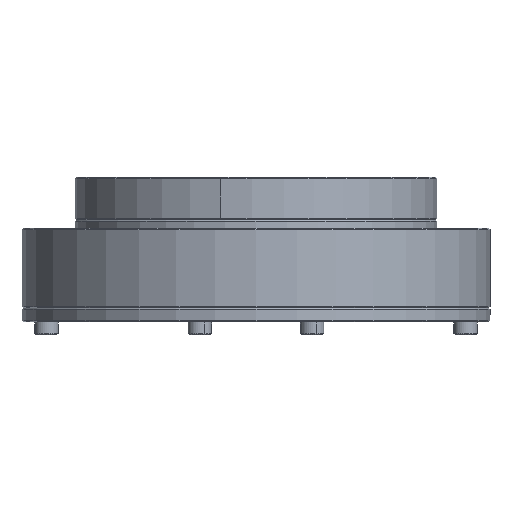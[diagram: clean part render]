
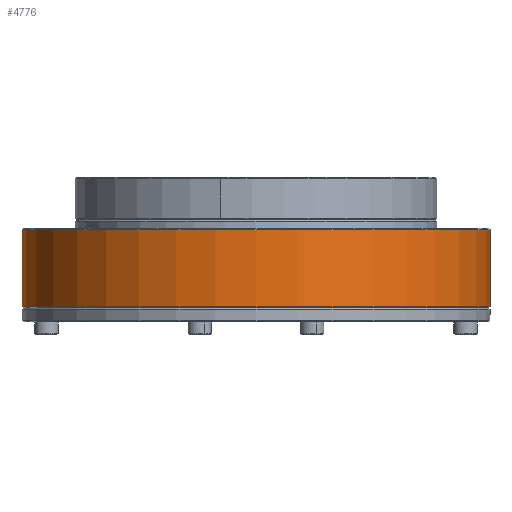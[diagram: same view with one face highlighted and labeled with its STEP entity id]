
A CAD part, left-side view. The second image highlights one B-rep face of the part: STEP entity #4776.
In plain terms, the highlighted cylindrical face has radius 55 mm (diameter 110 mm), a partial arc.
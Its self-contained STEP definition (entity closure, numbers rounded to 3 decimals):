
#2048 = DIRECTION ( 'NONE',  ( 0., -1., 0. ) ) ;
#2453 = CYLINDRICAL_SURFACE ( 'NONE', #11442, 55. ) ;
#2866 = CIRCLE ( 'NONE', #11851, 55. ) ;
#2906 = ORIENTED_EDGE ( 'NONE', *, *, #7976, .T. ) ;
#3106 = ORIENTED_EDGE ( 'NONE', *, *, #5522, .T. ) ;
#3584 = LINE ( 'NONE', #4627, #13979 ) ;
#3644 = EDGE_CURVE ( 'NONE', #5664, #10607, #2866, .T. ) ;
#3683 = ORIENTED_EDGE ( 'NONE', *, *, #3644, .T. ) ;
#3704 = VECTOR ( 'NONE', #13013, 1000. ) ;
#3831 = ORIENTED_EDGE ( 'NONE', *, *, #7357, .F. ) ;
#4536 = DIRECTION ( 'NONE',  ( 0., 0., -1. ) ) ;
#4627 = CARTESIAN_POINT ( 'NONE',  ( -7.583, 66.586, 81.31 ) ) ;
#4776 = ADVANCED_FACE ( 'NONE', ( #9277 ), #2453, .T. ) ;
#4843 = CARTESIAN_POINT ( 'NONE',  ( -7.583, 11.586, 81.31 ) ) ;
#4876 = DIRECTION ( 'NONE',  ( 0., 0., 1. ) ) ;
#5042 = DIRECTION ( 'NONE',  ( 0., 1., 0. ) ) ;
#5522 = EDGE_CURVE ( 'NONE', #10607, #14220, #3584, .T. ) ;
#5652 = VERTEX_POINT ( 'NONE', #11124 ) ;
#5664 = VERTEX_POINT ( 'NONE', #10622 ) ;
#5881 = CARTESIAN_POINT ( 'NONE',  ( -7.583, 66.586, 60.91 ) ) ;
#6273 = AXIS2_PLACEMENT_3D ( 'NONE', #12165, #4876, #2048 ) ;
#7357 = EDGE_CURVE ( 'NONE', #5664, #5652, #10160, .T. ) ;
#7976 = EDGE_CURVE ( 'NONE', #14220, #5652, #9173, .T. ) ;
#8272 = CARTESIAN_POINT ( 'NONE',  ( -7.583, 66.586, 79.01 ) ) ;
#8326 = DIRECTION ( 'NONE',  ( 0., 0., -1. ) ) ;
#9173 = CIRCLE ( 'NONE', #6273, 55. ) ;
#9277 = FACE_OUTER_BOUND ( 'NONE', #14109, .T. ) ;
#10160 = LINE ( 'NONE', #13029, #3704 ) ;
#10607 = VERTEX_POINT ( 'NONE', #8272 ) ;
#10622 = CARTESIAN_POINT ( 'NONE',  ( -7.583, -43.414, 79.01 ) ) ;
#11124 = CARTESIAN_POINT ( 'NONE',  ( -7.583, -43.414, 60.91 ) ) ;
#11442 = AXIS2_PLACEMENT_3D ( 'NONE', #4843, #8326, #5042 ) ;
#11851 = AXIS2_PLACEMENT_3D ( 'NONE', #13416, #13455, #13501 ) ;
#12165 = CARTESIAN_POINT ( 'NONE',  ( -7.583, 11.586, 60.91 ) ) ;
#13013 = DIRECTION ( 'NONE',  ( 0., 0., -1. ) ) ;
#13029 = CARTESIAN_POINT ( 'NONE',  ( -7.583, -43.414, 81.31 ) ) ;
#13416 = CARTESIAN_POINT ( 'NONE',  ( -7.583, 11.586, 79.01 ) ) ;
#13455 = DIRECTION ( 'NONE',  ( 0., 0., -1. ) ) ;
#13501 = DIRECTION ( 'NONE',  ( 0., -1., 0. ) ) ;
#13979 = VECTOR ( 'NONE', #4536, 1000. ) ;
#14109 = EDGE_LOOP ( 'NONE', ( #3831, #3683, #3106, #2906 ) ) ;
#14220 = VERTEX_POINT ( 'NONE', #5881 ) ;
